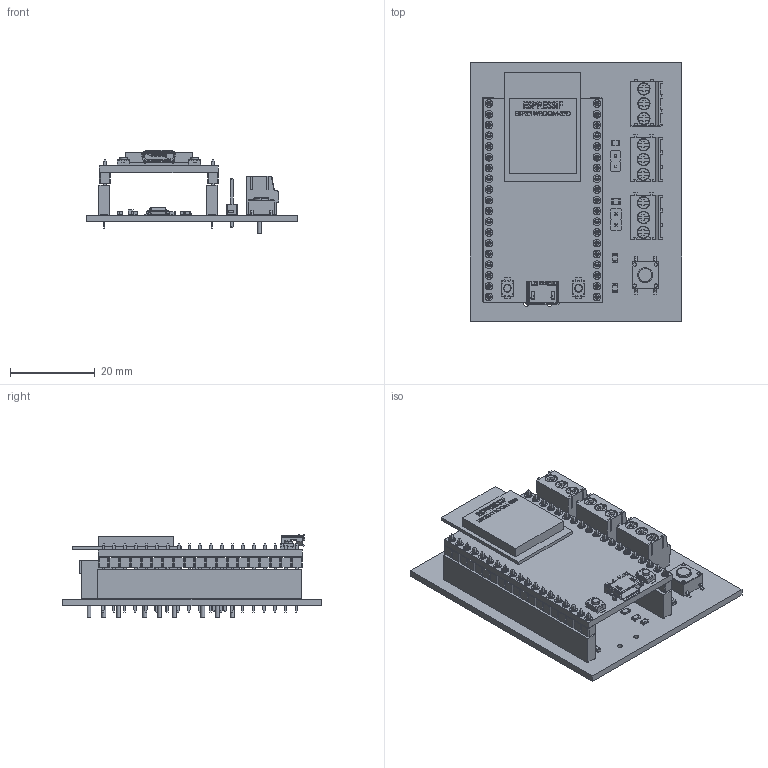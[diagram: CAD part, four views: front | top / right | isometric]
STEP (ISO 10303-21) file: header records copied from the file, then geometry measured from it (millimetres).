
FILE_DESCRIPTION(('KiCad electronic assembly'),'2;1');
FILE_NAME('ENP-KIT-232-485-CAN_V1.0-3D.step','2022-11-30T16:17:35',( 'Pcbnew'),('Kicad'),'Open CASCADE STEP processor 7.5', 'KiCad to STEP converter','Unknown');
FILE_SCHEMA(('AUTOMOTIVE_DESIGN { 1 0 10303 214 1 1 1 1 }'));
Length unit declared in the file: millimetre
Products named in the file (24): ENP-KIT-232-485-CAN_V1.0-3D 1; LED_0805_2012Metric; SOLID; PinSocket_1x19_P2.54mm_Vertical; R_0805_2012Metric; sw_diptronics_dtsm-61r-b; COMPOUND; ESP32-WROOM-32D-Assembly; C_0603_1608Metric; TerminalBlock_Phoenix_PT-1,5-3-3.5-H_1x03_P3.50mm_Horizontal; PinHeader_1x02_P2.54mm_Vertical; SOIC-8_3.9x4.9mm_P1.27mm; SOIC-16_3.9x9.9mm_P1.27mm; C_0805_2012Metric; tmp3wjlw4je PCB
Assembly tree (42 placements, depth 3):
  ENP-KIT-232-485-CAN_V1.0-3D 1
    LED_0805_2012Metric  x2
      SOLID
    PinSocket_1x19_P2.54mm_Vertical  x2
      SOLID
    R_0805_2012Metric  x5
      SOLID
    sw_diptronics_dtsm-61r-b
      COMPOUND
    ESP32-WROOM-32D-Assembly
      COMPOUND
    C_0603_1608Metric  x10
      SOLID
    TerminalBlock_Phoenix_PT-1,5-3-3.5-H_1x03_P3.50mm_Horizontal  x3
      SOLID
    PinHeader_1x02_P2.54mm_Vertical  x2
      SOLID
    SOIC-8_3.9x4.9mm_P1.27mm  x2
      SOLID
    SOIC-16_3.9x9.9mm_P1.27mm
      SOLID
    C_0805_2012Metric
      SOLID
    tmp3wjlw4je PCB
Bounding box: 50 x 61 x 19.84 mm (x, y, z)
Volume: 12304.7 mm3; surface area: 22500.2 mm2
Topology: 194 solids, 194 shells, 6599 faces, 16830 edges, 10782 vertices
Faces by surface type: bspline 6540, cylinder 53, plane 6
Full cylindrical faces by diameter (mm): 1 x42, 1.2 x11
Entity records: 310260 total; most frequent: CARTESIAN_POINT 131096, B_SPLINE_CURVE_WITH_KNOTS 35417, ORIENTED_EDGE 25556, PCURVE 25556, DEFINITIONAL_REPRESENTATION 25556, EDGE_CURVE 12778, SURFACE_CURVE 12714, VERTEX_POINT 8150
